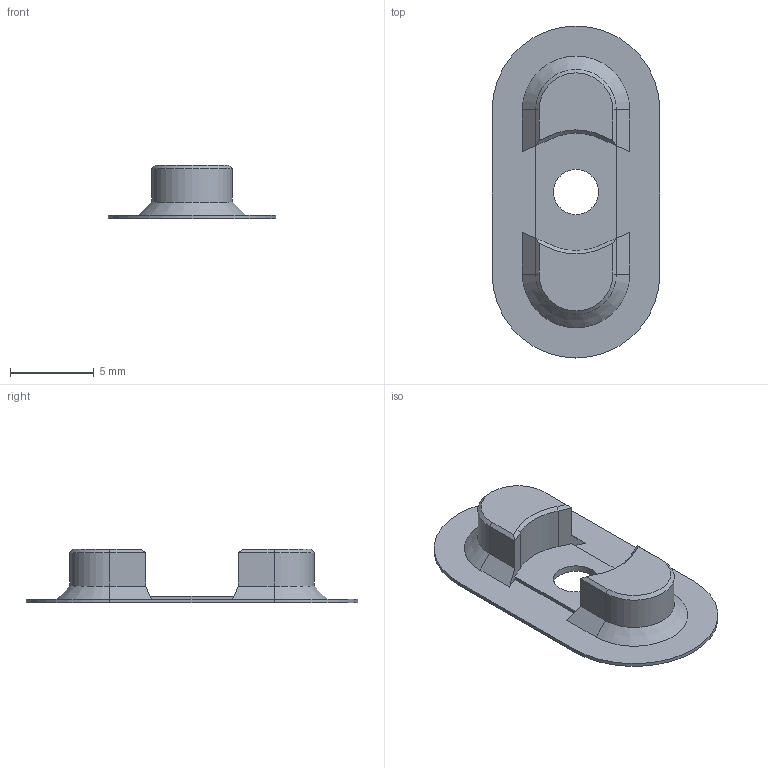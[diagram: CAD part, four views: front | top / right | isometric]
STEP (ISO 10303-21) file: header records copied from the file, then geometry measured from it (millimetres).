
FILE_DESCRIPTION(/* description */ ('STEP AP242','CAx-IF Rec.Pracs.---Representation and Presentation of Product Manufacturing Information (PMI)---4.0---2014-10-13','CAx-IF Rec.Pracs.---3D Tessellated Geometry---0.4---2014-09-14','2;1'),/* implementation_level */ '2;1');
FILE_NAME(/* name */ '62b5d8b5beb4187a4afae97d',/* time_stamp */ '2022-06-24T15:31:02+00:00',/* author */ (''),/* organization */ (''),/* preprocessor_version */ 'ST-DEVELOPER v18.102',/* originating_system */ ' ',/* authorisation */ ' ');
FILE_SCHEMA (('AP242_MANAGED_MODEL_BASED_3D_ENGINEERING_MIM_LF { 1 0 10303 442 1 1 4 }'));
Length unit declared in the file: metre
Products named in the file (1): Alignment Guide M2.5
Bounding box: 10 x 19.8 x 3.2 mm (x, y, z)
Volume: 149.2 mm3; surface area: 444 mm2
Topology: 1 solids, 1 shells, 42 faces, 101 edges, 62 vertices
Faces by surface type: plane 29, cylinder 7, cone 6
Full cylindrical faces by diameter (mm): 2.7 x1
Entity records: 1222 total; most frequent: CARTESIAN_POINT 217, DIRECTION 202, ORIENTED_EDGE 200, EDGE_CURVE 100, LINE 76, VECTOR 76, AXIS2_PLACEMENT_3D 63, VERTEX_POINT 62
